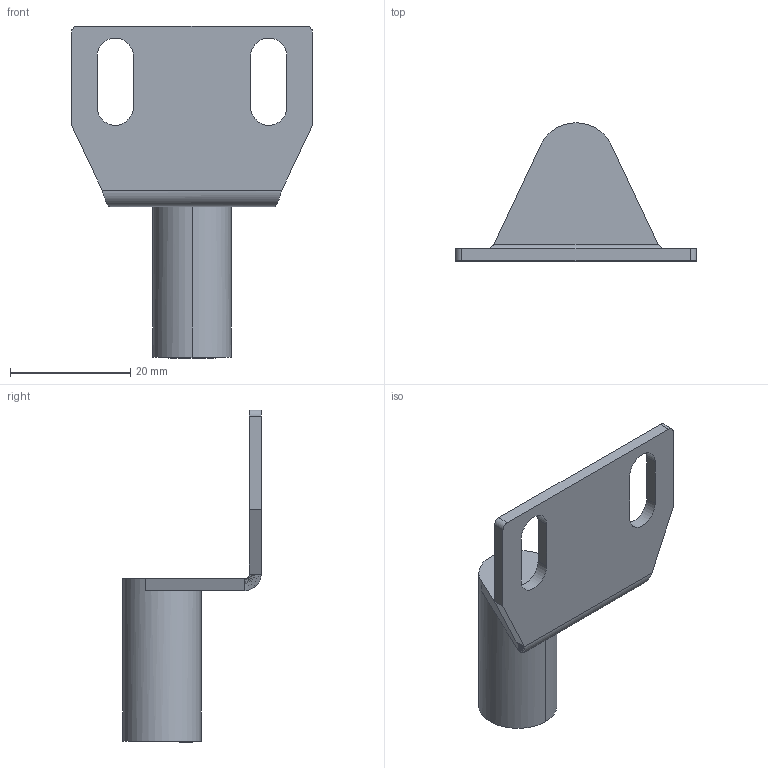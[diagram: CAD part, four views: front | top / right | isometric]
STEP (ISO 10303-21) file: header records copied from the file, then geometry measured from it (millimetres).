
FILE_DESCRIPTION (( 'STEP AP214' ), '1' );
FILE_NAME ('1.4039 Ovimagneetti T 13X25.STEP', '2025-09-15T07:04:25', ( '' ), ( '' ), 'SwSTEP 2.0', 'SolidWorks 2025', '' );
FILE_SCHEMA (( 'AUTOMOTIVE_DESIGN' ));
Length unit declared in the file: millimetre
Products named in the file (1): 1.4039 Ovimagneetti T 13X25
Bounding box: 40 x 23 x 55.15 mm (x, y, z)
Volume: 5948.9 mm3; surface area: 4094.5 mm2
Topology: 1 solids, 1 shells, 33 faces, 82 edges, 52 vertices
Faces by surface type: plane 17, cylinder 14, bspline 2
Entity records: 1069 total; most frequent: CARTESIAN_POINT 250, DIRECTION 164, ORIENTED_EDGE 164, EDGE_CURVE 82, AXIS2_PLACEMENT_3D 58, VERTEX_POINT 52, LINE 48, VECTOR 48
